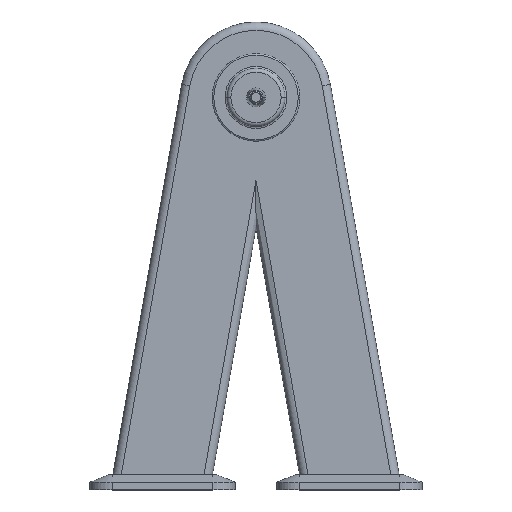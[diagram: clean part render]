
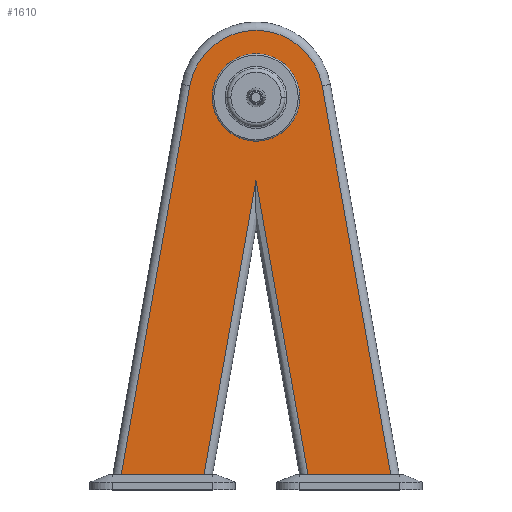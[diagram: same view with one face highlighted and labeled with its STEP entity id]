
A CAD part, top view. The second image highlights one B-rep face of the part: STEP entity #1610.
In plain terms, the highlighted planar face has unit normal (0, 0, 1).
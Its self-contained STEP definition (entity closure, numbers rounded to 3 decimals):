
#14 = DIRECTION ( 'NONE',  ( -1., 0., 0. ) ) ;
#23 = CARTESIAN_POINT ( 'NONE',  ( -68.87, 20., 63. ) ) ;
#25 = CARTESIAN_POINT ( 'NONE',  ( 0., 20., 63. ) ) ;
#54 = CARTESIAN_POINT ( 'NONE',  ( -183.458, -7.91, 63. ) ) ;
#136 = EDGE_CURVE ( 'NONE', #1189, #1514, #2266, .T. ) ;
#165 = CIRCLE ( 'NONE', #2190, 58. ) ;
#237 = PLANE ( 'NONE',  #2019 ) ;
#268 = VERTEX_POINT ( 'NONE', #1057 ) ;
#280 = FACE_OUTER_BOUND ( 'NONE', #2784, .T. ) ;
#326 = VECTOR ( 'NONE', #2619, 1000. ) ;
#344 = ORIENTED_EDGE ( 'NONE', *, *, #2228, .F. ) ;
#366 = CARTESIAN_POINT ( 'NONE',  ( 0., 410.583, 63. ) ) ;
#504 = ORIENTED_EDGE ( 'NONE', *, *, #2580, .T. ) ;
#531 = EDGE_CURVE ( 'NONE', #2549, #1380, #872, .T. ) ;
#606 = CARTESIAN_POINT ( 'NONE',  ( 0., 520., 63. ) ) ;
#666 = CARTESIAN_POINT ( 'NONE',  ( 68.87, 20., 63. ) ) ;
#693 = CARTESIAN_POINT ( 'NONE',  ( 0., 520., 63. ) ) ;
#696 = DIRECTION ( 'NONE',  ( 0., 0., 1. ) ) ;
#697 = CARTESIAN_POINT ( 'NONE',  ( -10.833, 349.147, 63. ) ) ;
#698 = CARTESIAN_POINT ( 'NONE',  ( 0., 520., 63. ) ) ;
#786 = LINE ( 'NONE', #2302, #1891 ) ;
#810 = VERTEX_POINT ( 'NONE', #366 ) ;
#847 = DIRECTION ( 'NONE',  ( 1., 0., 0. ) ) ;
#872 = CIRCLE ( 'NONE', #1007, 89. ) ;
#1007 = AXIS2_PLACEMENT_3D ( 'NONE', #698, #696, #1220 ) ;
#1018 = VERTEX_POINT ( 'NONE', #23 ) ;
#1022 = EDGE_CURVE ( 'NONE', #1018, #1983, #2104, .T. ) ;
#1057 = CARTESIAN_POINT ( 'NONE',  ( 58., 520., 63. ) ) ;
#1063 = CARTESIAN_POINT ( 'NONE',  ( -87.648, 535.455, 63. ) ) ;
#1104 = CARTESIAN_POINT ( 'NONE',  ( -178.536, 20., 63. ) ) ;
#1159 = DIRECTION ( 'NONE',  ( 0., 0., 1. ) ) ;
#1189 = VERTEX_POINT ( 'NONE', #2293 ) ;
#1220 = DIRECTION ( 'NONE',  ( 1., 0., 0. ) ) ;
#1236 = ORIENTED_EDGE ( 'NONE', *, *, #1022, .F. ) ;
#1253 = DIRECTION ( 'NONE',  ( 0., 0., 1. ) ) ;
#1327 = CARTESIAN_POINT ( 'NONE',  ( 74.983, -14.664, 63. ) ) ;
#1365 = EDGE_CURVE ( 'NONE', #268, #1713, #2610, .T. ) ;
#1380 = VERTEX_POINT ( 'NONE', #1063 ) ;
#1417 = EDGE_CURVE ( 'NONE', #810, #1514, #1896, .T. ) ;
#1504 = EDGE_LOOP ( 'NONE', ( #344, #2008 ) ) ;
#1514 = VERTEX_POINT ( 'NONE', #666 ) ;
#1610 = ADVANCED_FACE ( 'NONE', ( #2532, #280 ), #237, .T. ) ;
#1650 = AXIS2_PLACEMENT_3D ( 'NONE', #606, #2156, #847 ) ;
#1709 = VECTOR ( 'NONE', #2243, 1000. ) ;
#1713 = VERTEX_POINT ( 'NONE', #2467 ) ;
#1785 = CARTESIAN_POINT ( 'NONE',  ( 0., 20., 63. ) ) ;
#1786 = EDGE_CURVE ( 'NONE', #1189, #2549, #786, .T. ) ;
#1884 = DIRECTION ( 'NONE',  ( -0.174, 0.985, 0. ) ) ;
#1891 = VECTOR ( 'NONE', #1884, 1000. ) ;
#1896 = LINE ( 'NONE', #1327, #2495 ) ;
#1920 = ORIENTED_EDGE ( 'NONE', *, *, #1417, .T. ) ;
#1955 = LINE ( 'NONE', #697, #326 ) ;
#1956 = VECTOR ( 'NONE', #2282, 1000. ) ;
#1983 = VERTEX_POINT ( 'NONE', #1104 ) ;
#2008 = ORIENTED_EDGE ( 'NONE', *, *, #1365, .F. ) ;
#2019 = AXIS2_PLACEMENT_3D ( 'NONE', #693, #1159, #2616 ) ;
#2026 = VECTOR ( 'NONE', #14, 1000. ) ;
#2086 = LINE ( 'NONE', #54, #1956 ) ;
#2104 = LINE ( 'NONE', #25, #2026 ) ;
#2156 = DIRECTION ( 'NONE',  ( 0., 0., 1. ) ) ;
#2164 = EDGE_CURVE ( 'NONE', #1380, #1983, #2086, .T. ) ;
#2172 = ORIENTED_EDGE ( 'NONE', *, *, #2164, .T. ) ;
#2181 = ORIENTED_EDGE ( 'NONE', *, *, #531, .T. ) ;
#2190 = AXIS2_PLACEMENT_3D ( 'NONE', #2504, #1253, #2701 ) ;
#2228 = EDGE_CURVE ( 'NONE', #1713, #268, #165, .T. ) ;
#2243 = DIRECTION ( 'NONE',  ( -1., 0., 0. ) ) ;
#2266 = LINE ( 'NONE', #1785, #1709 ) ;
#2282 = DIRECTION ( 'NONE',  ( -0.174, -0.985, 0. ) ) ;
#2293 = CARTESIAN_POINT ( 'NONE',  ( 178.536, 20., 63. ) ) ;
#2302 = CARTESIAN_POINT ( 'NONE',  ( 87.648, 535.455, 63. ) ) ;
#2467 = CARTESIAN_POINT ( 'NONE',  ( -58., 520., 63. ) ) ;
#2495 = VECTOR ( 'NONE', #2764, 1000. ) ;
#2504 = CARTESIAN_POINT ( 'NONE',  ( 0., 520., 63. ) ) ;
#2532 = FACE_BOUND ( 'NONE', #1504, .T. ) ;
#2549 = VERTEX_POINT ( 'NONE', #2809 ) ;
#2553 = ORIENTED_EDGE ( 'NONE', *, *, #136, .F. ) ;
#2580 = EDGE_CURVE ( 'NONE', #1018, #810, #1955, .T. ) ;
#2610 = CIRCLE ( 'NONE', #1650, 58. ) ;
#2616 = DIRECTION ( 'NONE',  ( 1., 0., 0. ) ) ;
#2619 = DIRECTION ( 'NONE',  ( 0.174, 0.985, 0. ) ) ;
#2701 = DIRECTION ( 'NONE',  ( 1., 0., 0. ) ) ;
#2705 = ORIENTED_EDGE ( 'NONE', *, *, #1786, .T. ) ;
#2764 = DIRECTION ( 'NONE',  ( 0.174, -0.985, 0. ) ) ;
#2784 = EDGE_LOOP ( 'NONE', ( #1236, #504, #1920, #2553, #2705, #2181, #2172 ) ) ;
#2809 = CARTESIAN_POINT ( 'NONE',  ( 87.648, 535.455, 63. ) ) ;
